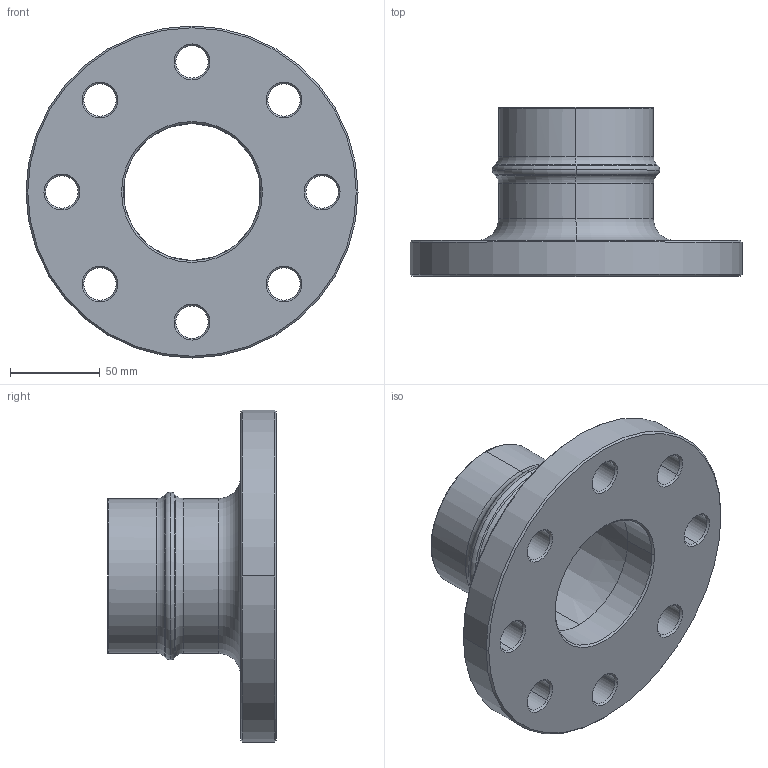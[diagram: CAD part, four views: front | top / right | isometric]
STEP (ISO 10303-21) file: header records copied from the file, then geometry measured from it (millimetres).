
FILE_DESCRIPTION((''),'2;1');
FILE_NAME('AU15677100','2019-12-13T',('Administrator'),(''),'PRO/ENGINEER BY PARAMETRIC TECHNOLOGY CORPORATION, 2009360','PRO/ENGINEER BY PARAMETRIC TECHNOLOGY CORPORATION, 2009360','');
FILE_SCHEMA(('AUTOMOTIVE_DESIGN_CC2 { 1 2 10303 214 -1 1 5 2 }'));
Length unit declared in the file: millimetre
Products named in the file (1): AU15677100
Bounding box: 185 x 94.08 x 185 mm (x, y, z)
Volume: 505345.4 mm3; surface area: 101861.4 mm2
Topology: 1 solids, 1 shells, 85 faces, 196 edges, 114 vertices
Faces by surface type: cone 44, cylinder 24, torus 14, plane 3
Entity records: 3073 total; most frequent: DIRECTION 494, CARTESIAN_POINT 395, ORIENTED_EDGE 392, AXIS2_PLACEMENT_3D 213, PRESENTATION_STYLE_ASSIGNMENT 197, STYLED_ITEM 197, CURVE_STYLE 196, EDGE_CURVE 196
